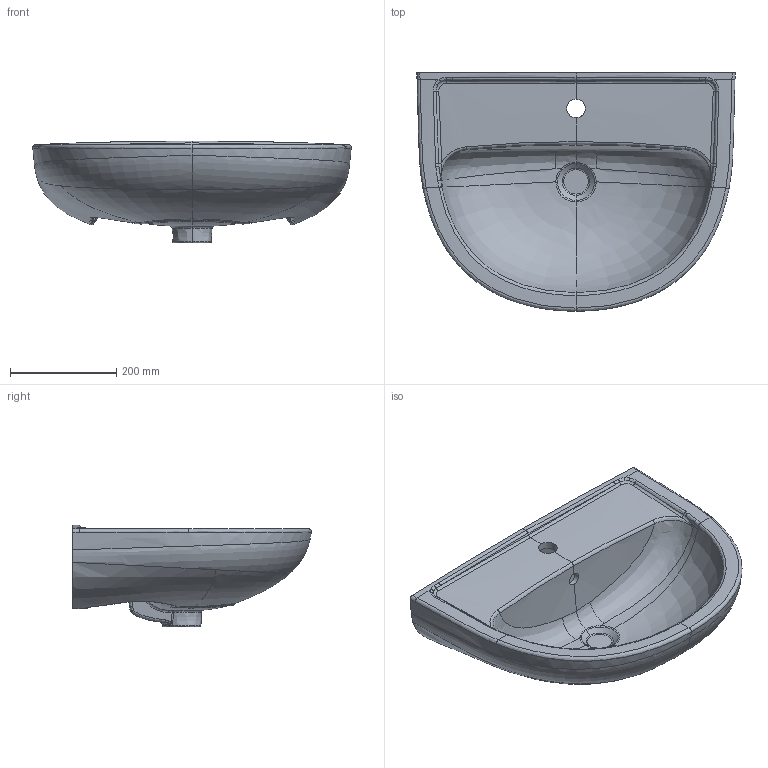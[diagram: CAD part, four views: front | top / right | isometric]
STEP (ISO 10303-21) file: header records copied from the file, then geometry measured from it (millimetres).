
FILE_DESCRIPTION(/* description */ (''),/* implementation_level */ '2;1');
FILE_NAME(/* name */ '4A9160.stp',/* time_stamp */ '2021-05-27T13:49:57+02:00',/* author */ (''),/* organization */ (''),/* preprocessor_version */ 'ST-DEVELOPER v16.7',/* originating_system */ 'SIEMENS PLM Software NX 1863',/* authorisation */ '');
FILE_SCHEMA (('AUTOMOTIVE_DESIGN { 1 0 10303 214 3 1 1 1 }'));
Products named in the file (1): koeb3374C2B3rjky
Bounding box: 598.79 x 448.84 x 191.77 mm (x, y, z)
Volume: 6990796.9 mm3; surface area: 1243461.3 mm2
Topology: 1 solids, 1 shells, 796 faces, 1965 edges, 1124 vertices
Faces by surface type: bspline 659, sphere 39, plane 37, cylinder 32, extrusion 16, torus 7, cone 4, revolution 2
Full cylindrical faces by diameter (mm): 24 x1, 35 x1
Entity records: 86642 total; most frequent: CARTESIAN_POINT 73402, ORIENTED_EDGE 3822, EDGE_CURVE 1911, B_SPLINE_CURVE_WITH_KNOTS 1453, VERTEX_POINT 1116, DIRECTION 1109, EDGE_LOOP 807, ADVANCED_FACE 796
